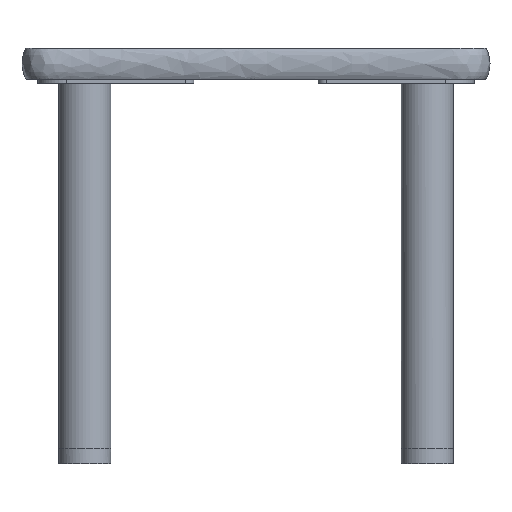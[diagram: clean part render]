
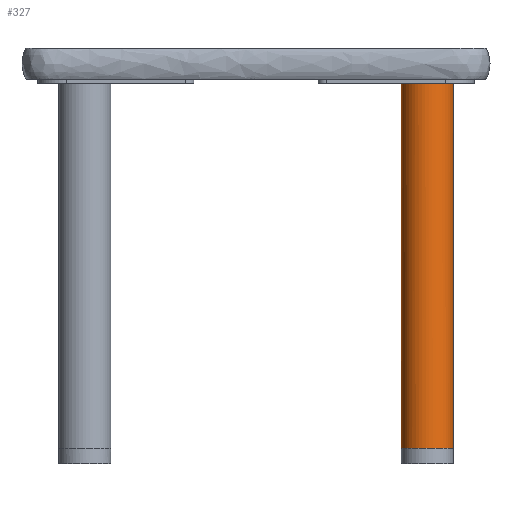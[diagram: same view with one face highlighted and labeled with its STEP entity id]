
A CAD part, front view. The second image highlights one B-rep face of the part: STEP entity #327.
In plain terms, the highlighted free-form (B-spline) face has degree [2, 1] with [5, 2] control points.
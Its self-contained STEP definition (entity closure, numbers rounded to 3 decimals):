
#64=(
BOUNDED_CURVE()
B_SPLINE_CURVE(2,(#3574,#3575,#3576,#3577,#3578),.UNSPECIFIED.,.F.,.F.)
B_SPLINE_CURVE_WITH_KNOTS((3,2,3),(0.,3.927,7.854),
 .UNSPECIFIED.)
CURVE()
GEOMETRIC_REPRESENTATION_ITEM()
RATIONAL_B_SPLINE_CURVE((1.,0.707,1.,0.707,1.))
REPRESENTATION_ITEM('')
);
#67=(
BOUNDED_CURVE()
B_SPLINE_CURVE(2,(#3593,#3594,#3595,#3596,#3597),.UNSPECIFIED.,.F.,.F.)
B_SPLINE_CURVE_WITH_KNOTS((3,2,3),(-7.854,-3.927,
0.),.UNSPECIFIED.)
CURVE()
GEOMETRIC_REPRESENTATION_ITEM()
RATIONAL_B_SPLINE_CURVE((1.,0.707,1.,0.707,1.))
REPRESENTATION_ITEM('')
);
#235=(
BOUNDED_SURFACE()
B_SPLINE_SURFACE(2,1,((#3320,#3321),(#3322,#3323),(#3324,#3325),(#3326,
#3327),(#3328,#3329)),.UNSPECIFIED.,.F.,.F.,.F.)
B_SPLINE_SURFACE_WITH_KNOTS((3,2,3),(2,2),(0.,3.927,7.854),
(10.025,30.075),.UNSPECIFIED.)
GEOMETRIC_REPRESENTATION_ITEM()
RATIONAL_B_SPLINE_SURFACE(((1.,1.),(0.707,0.707),
(1.,1.),(0.707,0.707),(1.,1.)))
REPRESENTATION_ITEM('')
SURFACE()
);
#327=ADVANCED_FACE('',(#435),#235,.T.);
#435=FACE_OUTER_BOUND('',#543,.T.);
#543=EDGE_LOOP('',(#725,#726,#727,#728));
#725=ORIENTED_EDGE('',*,*,#1255,.F.);
#726=ORIENTED_EDGE('',*,*,#1256,.T.);
#727=ORIENTED_EDGE('',*,*,#1250,.F.);
#728=ORIENTED_EDGE('',*,*,#1257,.T.);
#1250=EDGE_CURVE('',#1625,#1624,#64,.T.);
#1255=EDGE_CURVE('',#1626,#1627,#67,.T.);
#1256=EDGE_CURVE('',#1626,#1624,#1523,.T.);
#1257=EDGE_CURVE('',#1625,#1627,#1524,.T.);
#1523=B_SPLINE_CURVE_WITH_KNOTS('',1,(#3598,#3599),.UNSPECIFIED.,.F.,.F.,
(2,2),(10.025,30.075),.UNSPECIFIED.);
#1524=B_SPLINE_CURVE_WITH_KNOTS('',1,(#3600,#3601),.UNSPECIFIED.,.F.,.F.,
(2,2),(-30.075,-10.025),.UNSPECIFIED.);
#1624=VERTEX_POINT('',#3525);
#1625=VERTEX_POINT('',#3526);
#1626=VERTEX_POINT('',#3527);
#1627=VERTEX_POINT('',#3528);
#3320=CARTESIAN_POINT('',(189.208,-164.7,366.));
#3321=CARTESIAN_POINT('',(189.208,-164.7,15.));
#3322=CARTESIAN_POINT('',(189.208,-189.7,366.));
#3323=CARTESIAN_POINT('',(189.208,-189.7,15.));
#3324=CARTESIAN_POINT('',(164.208,-189.7,366.));
#3325=CARTESIAN_POINT('',(164.208,-189.7,15.));
#3326=CARTESIAN_POINT('',(139.208,-189.7,366.));
#3327=CARTESIAN_POINT('',(139.208,-189.7,15.));
#3328=CARTESIAN_POINT('',(139.208,-164.7,366.));
#3329=CARTESIAN_POINT('',(139.208,-164.7,15.));
#3525=CARTESIAN_POINT('',(139.208,-164.7,15.));
#3526=CARTESIAN_POINT('',(189.208,-164.7,15.));
#3527=CARTESIAN_POINT('',(139.208,-164.7,366.));
#3528=CARTESIAN_POINT('',(189.208,-164.7,366.));
#3574=CARTESIAN_POINT('',(189.208,-164.7,15.));
#3575=CARTESIAN_POINT('',(189.208,-189.7,15.));
#3576=CARTESIAN_POINT('',(164.208,-189.7,15.));
#3577=CARTESIAN_POINT('',(139.208,-189.7,15.));
#3578=CARTESIAN_POINT('',(139.208,-164.7,15.));
#3593=CARTESIAN_POINT('',(139.208,-164.7,366.));
#3594=CARTESIAN_POINT('',(139.208,-189.7,366.));
#3595=CARTESIAN_POINT('',(164.208,-189.7,366.));
#3596=CARTESIAN_POINT('',(189.208,-189.7,366.));
#3597=CARTESIAN_POINT('',(189.208,-164.7,366.));
#3598=CARTESIAN_POINT('',(139.208,-164.7,366.));
#3599=CARTESIAN_POINT('',(139.208,-164.7,15.));
#3600=CARTESIAN_POINT('',(189.208,-164.7,15.));
#3601=CARTESIAN_POINT('',(189.208,-164.7,366.));
